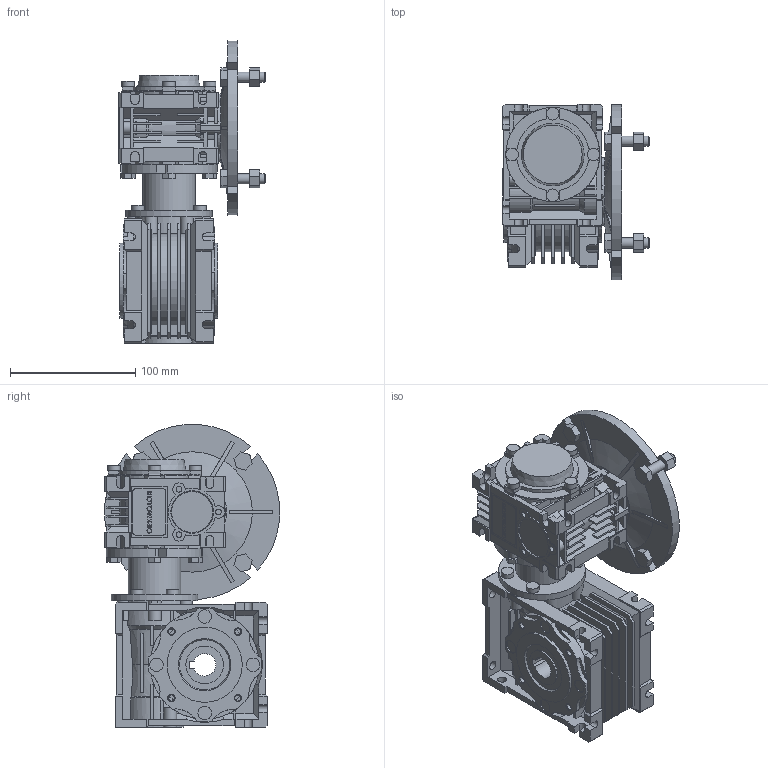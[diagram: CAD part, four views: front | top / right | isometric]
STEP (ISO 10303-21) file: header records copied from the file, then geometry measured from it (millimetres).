
FILE_DESCRIPTION(/* description */ ('STEP AP214'),/* implementation_level */ '2;1');
FILE_NAME(/* name */ 'NMRV-NMRV030-040100 (10x10)32118NO11NO00NO---(--------)',/* time_stamp */ '2024-10-22T09:53:12+02:00',/* author */ ('License CC BY-ND 4.0'),/* organization */ ('CADENAS'),/* preprocessor_version */ 'ST-DEVELOPER v19.3',/* originating_system */ 'PARTsolutions',/* authorisation */ ' ');
FILE_SCHEMA (('AUTOMOTIVE_DESIGN {1 0 10303 214 3 1 1}'));
Length unit declared in the file: millimetre
Products named in the file (13): NMRV-NMRV030-040100 (10x10)32118NO11NO00NO---(--------); 030-040100 (10x10)3214118No11No00NO---(--------)-d; 030-04050 (5x10)32118No11No00NO---d1; 030-04050 (5x10)32118No11No00T0631-d1; Gear unit 40; 040-18 (78)alc-n; VB 040-11 (11); Gear unit 30; 030-14 (63)alc-n; FT 030-040; Hollow shaft 30; VB 030-11 (11); 30-63 B5
Assembly tree (13 placements, depth 2):
  NMRV-NMRV030-040100 (10x10)32118NO11NO00NO---(--------)
    030-040100 (10x10)3214118No11No00NO---(--------)-d
    030-04050 (5x10)32118No11No00NO---d1
    030-04050 (5x10)32118No11No00T0631-d1  x2
    Gear unit 40
    040-18 (78)alc-n
    VB 040-11 (11)
    Gear unit 30
    030-14 (63)alc-n
    FT 030-040
    Hollow shaft 30
    VB 030-11 (11)
    30-63 B5
Bounding box: 117 x 139.77 x 241.77 mm (x, y, z)
Volume: 1163218.4 mm3; surface area: 307915.3 mm2
Topology: 9 solids, 16 shells, 1645 faces, 4397 edges, 2861 vertices
Faces by surface type: plane 1211, cylinder 334, cone 98, torus 2
Full cylindrical faces by diameter (mm): 3.545 x3, 4.65 x3, 4.917 x16, 5.55 x3, 6 x4, 7 x6, 8 x8, 10 x12, 10.8 x4, 16 x1, 19 x2, 23 x2, 24.8 x2, 28 x1, 30 x4, 36 x1, 37 x1, 38 x1, 40 x1, 42 x1, 47 x1, 55 x3, 60 x2, 69 x1, 75 x2, 93.5 x1, 95 x1
Entity records: 61795 total; most frequent: CARTESIAN_POINT 9445, ORIENTED_EDGE 8470, DIRECTION 8322, EDGE_CURVE 4235, LINE 3034, VECTOR 3034, VERTEX_POINT 2837, AXIS2_PLACEMENT_3D 2644
